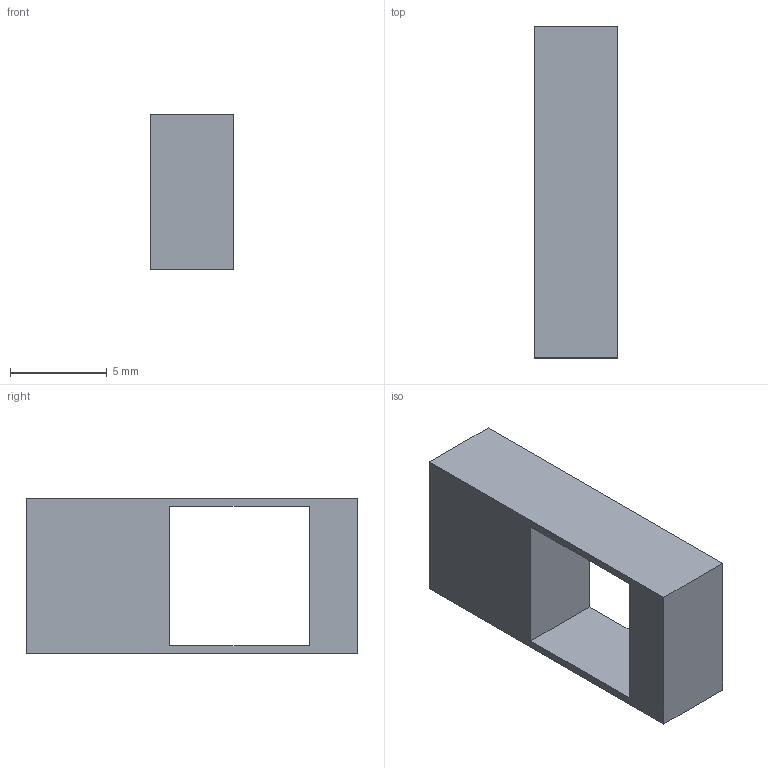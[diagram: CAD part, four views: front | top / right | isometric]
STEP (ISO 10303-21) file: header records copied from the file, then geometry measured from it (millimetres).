
FILE_DESCRIPTION(('FreeCAD Model'),'2;1');
FILE_NAME('Open CASCADE Shape Model','2026-10-30T15:57:33',('FreeCAD'),( 'FreeCAD'),'Open CASCADE STEP processor 7.8','FreeCAD','Unknown');
FILE_SCHEMA(('AUTOMOTIVE_DESIGN { 1 0 10303 214 1 1 1 1 }'));
Length unit declared in the file: millimetre
Products named in the file (1): Open CASCADE STEP translator 7.8 5
Bounding box: 4.3 x 17.1 x 8 mm (x, y, z)
Volume: 365.3 mm3; surface area: 509.6 mm2
Topology: 1 solids, 1 shells, 10 faces, 24 edges, 16 vertices
Faces by surface type: plane 10
Entity records: 302 total; most frequent: CARTESIAN_POINT 51, ORIENTED_EDGE 48, DIRECTION 46, EDGE_CURVE 24, LINE 24, VECTOR 24, VERTEX_POINT 16, FACE_BOUND 12
